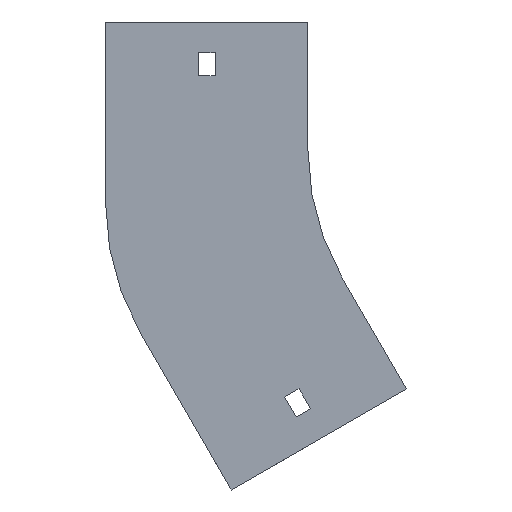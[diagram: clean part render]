
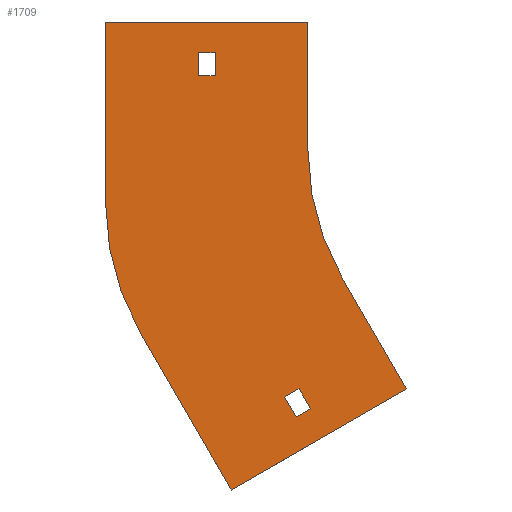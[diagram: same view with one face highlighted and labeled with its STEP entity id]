
A CAD part, front view. The second image highlights one B-rep face of the part: STEP entity #1709.
In plain terms, the highlighted planar face has unit normal (0, -1, 0).
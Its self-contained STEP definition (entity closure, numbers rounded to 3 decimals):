
#14 = VERTEX_POINT ( 'NONE', #487 ) ;
#23 = ORIENTED_EDGE ( 'NONE', *, *, #116, .F. ) ;
#34 = FACE_BOUND ( 'NONE', #1764, .T. ) ;
#56 = AXIS2_PLACEMENT_3D ( 'NONE', #1619, #1464, #1588 ) ;
#64 = DIRECTION ( 'NONE',  ( 0.5, 0., -0.866 ) ) ;
#83 = CARTESIAN_POINT ( 'NONE',  ( -98.996, 0., -101.034 ) ) ;
#103 = CARTESIAN_POINT ( 'NONE',  ( -179., 0., -21.168 ) ) ;
#116 = EDGE_CURVE ( 'NONE', #896, #1421, #370, .T. ) ;
#121 = CIRCLE ( 'NONE', #1505, 100. ) ;
#129 = EDGE_CURVE ( 'NONE', #1471, #481, #799, .T. ) ;
#144 = ORIENTED_EDGE ( 'NONE', *, *, #1225, .F. ) ;
#146 = CARTESIAN_POINT ( 'NONE',  ( -130.019, 0., -132.801 ) ) ;
#172 = EDGE_CURVE ( 'NONE', #1895, #896, #222, .T. ) ;
#187 = DIRECTION ( 'NONE',  ( 0., -1., 0. ) ) ;
#219 = VECTOR ( 'NONE', #1283, 1000. ) ;
#222 = LINE ( 'NONE', #826, #1300 ) ;
#233 = VERTEX_POINT ( 'NONE', #1286 ) ;
#293 = ORIENTED_EDGE ( 'NONE', *, *, #172, .F. ) ;
#316 = CARTESIAN_POINT ( 'NONE',  ( -100., 0., 0. ) ) ;
#319 = ORIENTED_EDGE ( 'NONE', *, *, #1825, .F. ) ;
#342 = CARTESIAN_POINT ( 'NONE',  ( -103.496, 0., -93.24 ) ) ;
#363 = ORIENTED_EDGE ( 'NONE', *, *, #1908, .T. ) ;
#370 = LINE ( 'NONE', #672, #1934 ) ;
#406 = CARTESIAN_POINT ( 'NONE',  ( -100., 0., 50. ) ) ;
#411 = ORIENTED_EDGE ( 'NONE', *, *, #1513, .F. ) ;
#415 = CARTESIAN_POINT ( 'NONE',  ( -142.75, 0., 29. ) ) ;
#470 = AXIS2_PLACEMENT_3D ( 'NONE', #954, #187, #1834 ) ;
#481 = VERTEX_POINT ( 'NONE', #1359 ) ;
#487 = CARTESIAN_POINT ( 'NONE',  ( -109.125, 0., -96.49 ) ) ;
#489 = CARTESIAN_POINT ( 'NONE',  ( -130.019, 0., -132.801 ) ) ;
#495 = CARTESIAN_POINT ( 'NONE',  ( -142.75, 0., 38. ) ) ;
#508 = CARTESIAN_POINT ( 'NONE',  ( -86.603, 0., -50. ) ) ;
#544 = VERTEX_POINT ( 'NONE', #1451 ) ;
#551 = CARTESIAN_POINT ( 'NONE',  ( -61.603, 0., -93.301 ) ) ;
#571 = DIRECTION ( 'NONE',  ( -0.866, 0., -0.5 ) ) ;
#593 = VECTOR ( 'NONE', #1621, 1000. ) ;
#611 = EDGE_CURVE ( 'NONE', #544, #1886, #1273, .T. ) ;
#654 = VECTOR ( 'NONE', #1581, 1000. ) ;
#657 = CIRCLE ( 'NONE', #56, 100. ) ;
#663 = LINE ( 'NONE', #495, #654 ) ;
#670 = CARTESIAN_POINT ( 'NONE',  ( -61.603, 0., -93.301 ) ) ;
#672 = CARTESIAN_POINT ( 'NONE',  ( -179., 0., 50. ) ) ;
#695 = LINE ( 'NONE', #1579, #754 ) ;
#714 = LINE ( 'NONE', #489, #1211 ) ;
#729 = LINE ( 'NONE', #415, #219 ) ;
#735 = VERTEX_POINT ( 'NONE', #146 ) ;
#754 = VECTOR ( 'NONE', #1180, 1000. ) ;
#781 = VECTOR ( 'NONE', #1870, 1000. ) ;
#799 = LINE ( 'NONE', #948, #803 ) ;
#802 = EDGE_CURVE ( 'NONE', #735, #233, #714, .T. ) ;
#803 = VECTOR ( 'NONE', #1728, 1000. ) ;
#817 = LINE ( 'NONE', #508, #1808 ) ;
#822 = FACE_OUTER_BOUND ( 'NONE', #1391, .T. ) ;
#826 = CARTESIAN_POINT ( 'NONE',  ( -179., 0., -21.168 ) ) ;
#828 = ORIENTED_EDGE ( 'NONE', *, *, #802, .F. ) ;
#850 = LINE ( 'NONE', #551, #593 ) ;
#875 = VERTEX_POINT ( 'NONE', #1673 ) ;
#896 = VERTEX_POINT ( 'NONE', #1529 ) ;
#897 = VERTEX_POINT ( 'NONE', #316 ) ;
#930 = EDGE_CURVE ( 'NONE', #1537, #1817, #817, .T. ) ;
#948 = CARTESIAN_POINT ( 'NONE',  ( -136.25, 0., 29. ) ) ;
#954 = CARTESIAN_POINT ( 'NONE',  ( 0., 0., 0. ) ) ;
#959 = ORIENTED_EDGE ( 'NONE', *, *, #1302, .T. ) ;
#965 = LINE ( 'NONE', #1274, #1625 ) ;
#982 = CARTESIAN_POINT ( 'NONE',  ( -79., 0., -21.168 ) ) ;
#991 = CARTESIAN_POINT ( 'NONE',  ( -109.125, 0., -96.49 ) ) ;
#1004 = DIRECTION ( 'NONE',  ( 0., 0., -1. ) ) ;
#1051 = LINE ( 'NONE', #342, #1614 ) ;
#1129 = ORIENTED_EDGE ( 'NONE', *, *, #611, .F. ) ;
#1134 = CARTESIAN_POINT ( 'NONE',  ( -100., 0., 50. ) ) ;
#1180 = DIRECTION ( 'NONE',  ( -1., 0., 0. ) ) ;
#1211 = VECTOR ( 'NONE', #1515, 1000. ) ;
#1217 = ORIENTED_EDGE ( 'NONE', *, *, #1880, .F. ) ;
#1225 = EDGE_CURVE ( 'NONE', #1886, #1275, #1051, .T. ) ;
#1264 = FACE_BOUND ( 'NONE', #1927, .T. ) ;
#1273 = LINE ( 'NONE', #1723, #781 ) ;
#1274 = CARTESIAN_POINT ( 'NONE',  ( -109.125, 0., -96.49 ) ) ;
#1275 = VERTEX_POINT ( 'NONE', #1416 ) ;
#1283 = DIRECTION ( 'NONE',  ( 0., 0., 1. ) ) ;
#1285 = LINE ( 'NONE', #991, #1503 ) ;
#1286 = CARTESIAN_POINT ( 'NONE',  ( -165.603, 0., -71.168 ) ) ;
#1300 = VECTOR ( 'NONE', #1837, 1000. ) ;
#1302 = EDGE_CURVE ( 'NONE', #1439, #1471, #663, .T. ) ;
#1313 = ORIENTED_EDGE ( 'NONE', *, *, #129, .T. ) ;
#1359 = CARTESIAN_POINT ( 'NONE',  ( -136.25, 0., 29. ) ) ;
#1391 = EDGE_LOOP ( 'NONE', ( #23, #293, #319, #828, #1710, #1598, #1217, #1878 ) ) ;
#1401 = ORIENTED_EDGE ( 'NONE', *, *, #1721, .F. ) ;
#1416 = CARTESIAN_POINT ( 'NONE',  ( -103.496, 0., -93.24 ) ) ;
#1421 = VERTEX_POINT ( 'NONE', #1134 ) ;
#1439 = VERTEX_POINT ( 'NONE', #1758 ) ;
#1451 = CARTESIAN_POINT ( 'NONE',  ( -104.625, 0., -104.284 ) ) ;
#1455 = CARTESIAN_POINT ( 'NONE',  ( -86.603, 0., -50. ) ) ;
#1464 = DIRECTION ( 'NONE',  ( 0., -1., 0. ) ) ;
#1471 = VERTEX_POINT ( 'NONE', #1589 ) ;
#1503 = VECTOR ( 'NONE', #571, 1000. ) ;
#1505 = AXIS2_PLACEMENT_3D ( 'NONE', #982, #1744, #1609 ) ;
#1513 = EDGE_CURVE ( 'NONE', #1275, #14, #1285, .T. ) ;
#1515 = DIRECTION ( 'NONE',  ( -0.5, 0., 0.866 ) ) ;
#1529 = CARTESIAN_POINT ( 'NONE',  ( -179., 0., 50. ) ) ;
#1532 = DIRECTION ( 'NONE',  ( 0.5, 0., -0.866 ) ) ;
#1533 = EDGE_CURVE ( 'NONE', #1817, #735, #850, .T. ) ;
#1536 = EDGE_CURVE ( 'NONE', #1421, #897, #1746, .T. ) ;
#1537 = VERTEX_POINT ( 'NONE', #1455 ) ;
#1541 = PLANE ( 'NONE',  #470 ) ;
#1579 = CARTESIAN_POINT ( 'NONE',  ( -142.75, 0., 29. ) ) ;
#1581 = DIRECTION ( 'NONE',  ( 1., 0., 0. ) ) ;
#1588 = DIRECTION ( 'NONE',  ( 0., 0., -1. ) ) ;
#1589 = CARTESIAN_POINT ( 'NONE',  ( -136.25, 0., 38. ) ) ;
#1598 = ORIENTED_EDGE ( 'NONE', *, *, #930, .F. ) ;
#1609 = DIRECTION ( 'NONE',  ( 0., 0., 1. ) ) ;
#1614 = VECTOR ( 'NONE', #1639, 1000. ) ;
#1619 = CARTESIAN_POINT ( 'NONE',  ( 0., 0., 0. ) ) ;
#1621 = DIRECTION ( 'NONE',  ( -0.866, 0., -0.5 ) ) ;
#1625 = VECTOR ( 'NONE', #1532, 1000. ) ;
#1639 = DIRECTION ( 'NONE',  ( -0.5, 0., 0.866 ) ) ;
#1658 = ORIENTED_EDGE ( 'NONE', *, *, #1847, .T. ) ;
#1673 = CARTESIAN_POINT ( 'NONE',  ( -142.75, 0., 29. ) ) ;
#1697 = DIRECTION ( 'NONE',  ( 1., 0., 0. ) ) ;
#1709 = ADVANCED_FACE ( 'NONE', ( #34, #822, #1264 ), #1541, .T. ) ;
#1710 = ORIENTED_EDGE ( 'NONE', *, *, #1533, .F. ) ;
#1721 = EDGE_CURVE ( 'NONE', #14, #544, #965, .T. ) ;
#1723 = CARTESIAN_POINT ( 'NONE',  ( -104.625, 0., -104.284 ) ) ;
#1728 = DIRECTION ( 'NONE',  ( 0., 0., -1. ) ) ;
#1744 = DIRECTION ( 'NONE',  ( 0., 1., 0. ) ) ;
#1746 = LINE ( 'NONE', #406, #1907 ) ;
#1758 = CARTESIAN_POINT ( 'NONE',  ( -142.75, 0., 38. ) ) ;
#1764 = EDGE_LOOP ( 'NONE', ( #363, #959, #1313, #1658 ) ) ;
#1808 = VECTOR ( 'NONE', #64, 1000. ) ;
#1817 = VERTEX_POINT ( 'NONE', #670 ) ;
#1825 = EDGE_CURVE ( 'NONE', #233, #1895, #121, .T. ) ;
#1834 = DIRECTION ( 'NONE',  ( 0., 0., -1. ) ) ;
#1837 = DIRECTION ( 'NONE',  ( 0., 0., 1. ) ) ;
#1847 = EDGE_CURVE ( 'NONE', #481, #875, #695, .T. ) ;
#1870 = DIRECTION ( 'NONE',  ( 0.866, 0., 0.5 ) ) ;
#1878 = ORIENTED_EDGE ( 'NONE', *, *, #1536, .F. ) ;
#1880 = EDGE_CURVE ( 'NONE', #897, #1537, #657, .T. ) ;
#1886 = VERTEX_POINT ( 'NONE', #83 ) ;
#1895 = VERTEX_POINT ( 'NONE', #103 ) ;
#1907 = VECTOR ( 'NONE', #1004, 1000. ) ;
#1908 = EDGE_CURVE ( 'NONE', #875, #1439, #729, .T. ) ;
#1927 = EDGE_LOOP ( 'NONE', ( #1129, #1401, #411, #144 ) ) ;
#1934 = VECTOR ( 'NONE', #1697, 1000. ) ;
